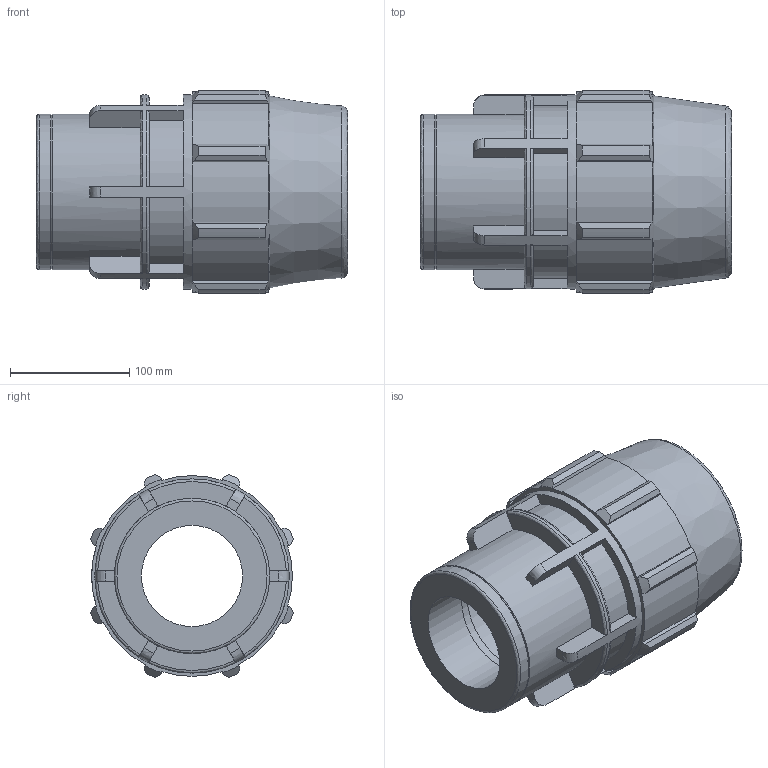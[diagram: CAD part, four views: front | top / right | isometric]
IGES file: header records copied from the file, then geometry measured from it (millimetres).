
Global section: file name: 0703061100300A.ipt; native system: Autodesk Inventor 2015; preprocessor: unknown; author: KIM; date: 20180325.201153; units: millimetre
Bounding box: 261 x 170.31 x 170.31 mm (x, y, z)
Volume: 2332135.6 mm3; surface area: 261347.1 mm2
Topology: 1 solids, 1 shells, 148 faces, 415 edges, 279 vertices
Faces by surface type: plane 86, revolution 26, cylinder 25, cone 11
Full cylindrical faces by diameter (mm): 130.32 x2, 162.9 x1
